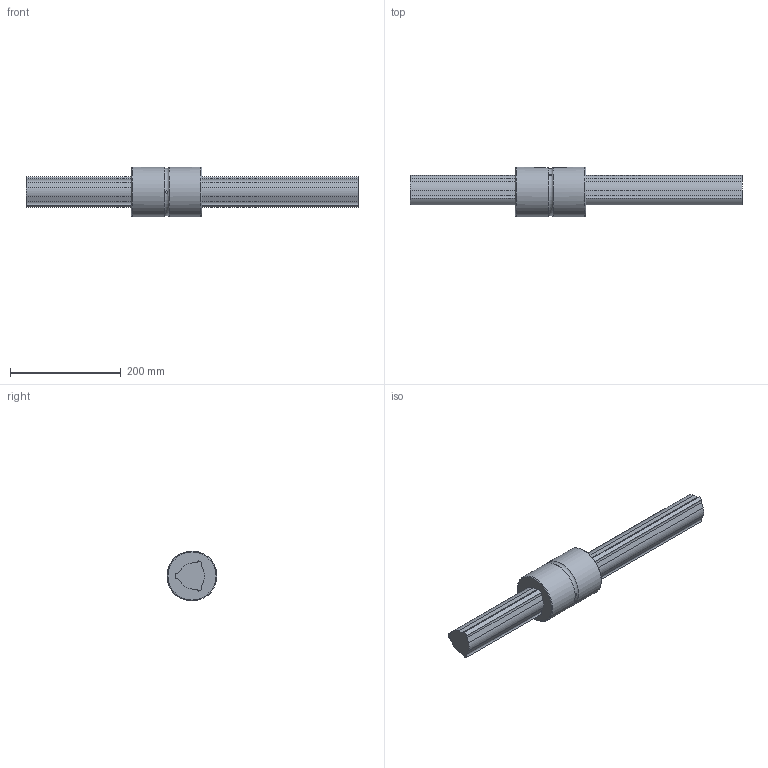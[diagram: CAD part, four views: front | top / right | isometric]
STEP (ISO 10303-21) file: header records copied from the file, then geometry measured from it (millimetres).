
FILE_DESCRIPTION(/* description */ ('STEP AP214'),/* implementation_level */ '2;1');
FILE_NAME(/* name */ 'LBST60+600L(127190.50)',/* time_stamp */ '2024-09-04T12:55:54+02:00',/* author */ ('License CC BY-ND 4.0'),/* organization */ ('CADENAS'),/* preprocessor_version */ 'ST-DEVELOPER v19.3',/* originating_system */ 'PARTsolutions',/* authorisation */ ' ');
FILE_SCHEMA (('AUTOMOTIVE_DESIGN {1 0 10303 214 3 1 1}'));
Length unit declared in the file: millimetre
Products named in the file (3): LBST60+600L(127190.50); LBST601600 Spline Shaft; LBST60 Nut
Assembly tree (2 placements, depth 2):
  LBST60+600L(127190.50)
    LBST601600 Spline Shaft
    LBST60 Nut
Bounding box: 600 x 90 x 90 mm (x, y, z)
Volume: 1710639.7 mm3; surface area: 176449 mm2
Topology: 3 solids, 3 shells, 57 faces, 148 edges, 99 vertices
Faces by surface type: cylinder 31, plane 22, torus 4
Full cylindrical faces by diameter (mm): 4 x3, 90 x2
Entity records: 1808 total; most frequent: CARTESIAN_POINT 353, DIRECTION 306, ORIENTED_EDGE 272, EDGE_CURVE 136, AXIS2_PLACEMENT_3D 118, VERTEX_POINT 94, LINE 70, VECTOR 70
